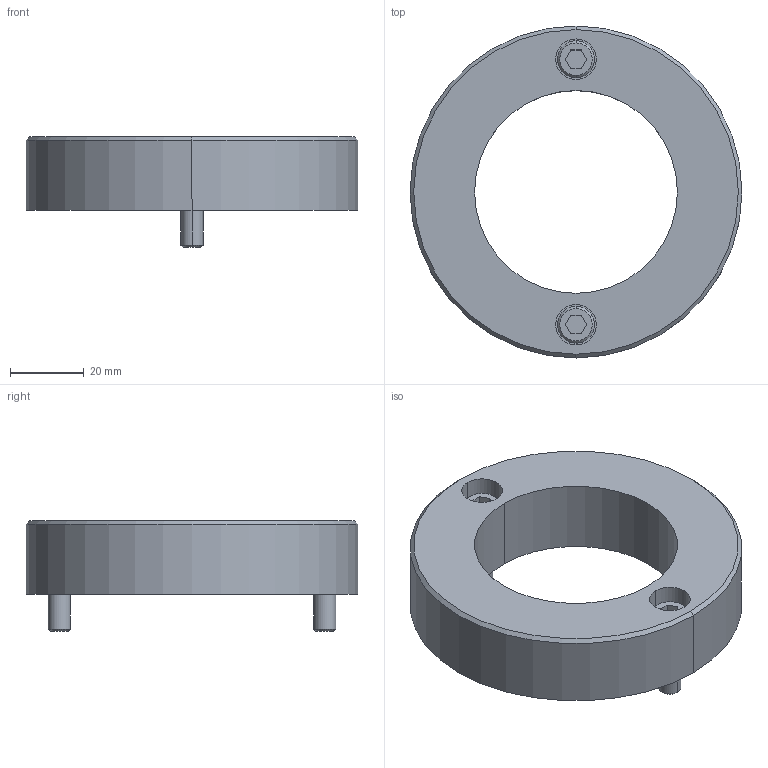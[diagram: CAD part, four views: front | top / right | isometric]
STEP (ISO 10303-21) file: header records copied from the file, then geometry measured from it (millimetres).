
FILE_DESCRIPTION((''),'2;1');
FILE_NAME('','2010-08-30T17:17:36+09:00',('misumi'),(''),'M/STEP i/f 1R2-14','CADmeister v5.1','');
FILE_SCHEMA(('AUTOMOTIVE_DESIGN'));
Length unit declared in the file: millimetre
Products named in the file (1): GEB50-20-N
Bounding box: 90 x 90 x 30 mm (x, y, z)
Volume: 78942.4 mm3; surface area: 19395.8 mm2
Topology: 3 solids, 3 shells, 54 faces, 116 edges, 74 vertices
Faces by surface type: plane 24, cylinder 20, cone 10
Entity records: 1592 total; most frequent: DIRECTION 276, CARTESIAN_POINT 245, ORIENTED_EDGE 232, EDGE_CURVE 116, AXIS2_PLACEMENT_3D 105, VERTEX_POINT 74, LINE 66, VECTOR 66
